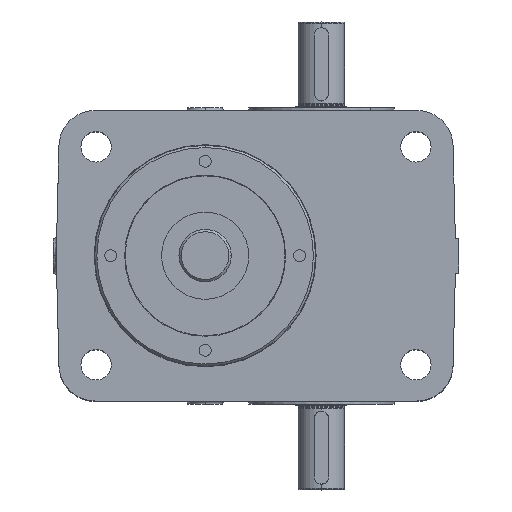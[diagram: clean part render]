
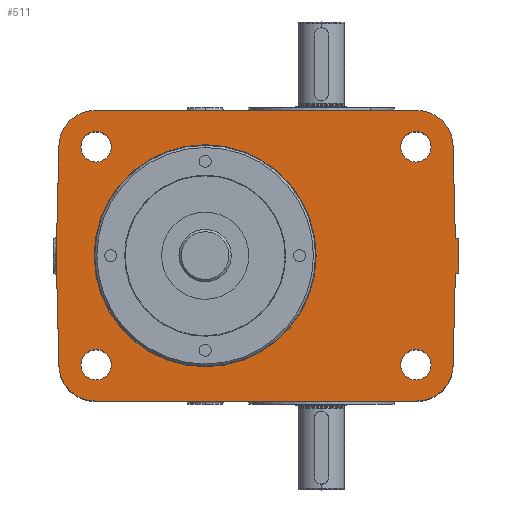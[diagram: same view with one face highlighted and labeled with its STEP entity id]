
A CAD part, top view. The second image highlights one B-rep face of the part: STEP entity #511.
In plain terms, the highlighted planar face has unit normal (0, 0, 1).
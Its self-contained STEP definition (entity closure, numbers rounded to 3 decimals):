
#511=ADVANCED_FACE('',(#1592,#1593,#1594,#1595,#1596,#1597),#1598,.F.);
#1592=FACE_OUTER_BOUND('',#4380,.T.);
#1593=FACE_BOUND('',#4381,.T.);
#1594=FACE_BOUND('',#4382,.T.);
#1595=FACE_BOUND('',#4383,.T.);
#1596=FACE_BOUND('',#4384,.T.);
#1597=FACE_BOUND('',#4385,.T.);
#1598=PLANE('',#4386);
#4380=EDGE_LOOP('',(#7780,#7781,#7782,#7783,#7784,#7785,#7786,#7787,#7788,#7789,#7790,#7791,#7792,#7793,#7794,#7795,#7796));
#4381=EDGE_LOOP('',(#7797,#7798));
#4382=EDGE_LOOP('',(#7799,#7800));
#4383=EDGE_LOOP('',(#7801,#7802));
#4384=EDGE_LOOP('',(#7803,#7804));
#4385=EDGE_LOOP('',(#7805,#7806));
#4386=AXIS2_PLACEMENT_3D('',#7807,#7808,#7809);
#7780=ORIENTED_EDGE('',*,*,#10714,.F.);
#7781=ORIENTED_EDGE('',*,*,#10288,.F.);
#7782=ORIENTED_EDGE('',*,*,#10733,.F.);
#7783=ORIENTED_EDGE('',*,*,#9850,.F.);
#7784=ORIENTED_EDGE('',*,*,#10697,.T.);
#7785=ORIENTED_EDGE('',*,*,#10700,.T.);
#7786=ORIENTED_EDGE('',*,*,#9819,.F.);
#7787=ORIENTED_EDGE('',*,*,#10771,.F.);
#7788=ORIENTED_EDGE('',*,*,#10458,.F.);
#7789=ORIENTED_EDGE('',*,*,#10775,.F.);
#7790=ORIENTED_EDGE('',*,*,#9807,.F.);
#7791=ORIENTED_EDGE('',*,*,#10776,.T.);
#7792=ORIENTED_EDGE('',*,*,#10777,.T.);
#7793=ORIENTED_EDGE('',*,*,#10778,.T.);
#7794=ORIENTED_EDGE('',*,*,#10779,.F.);
#7795=ORIENTED_EDGE('',*,*,#10712,.T.);
#7796=ORIENTED_EDGE('',*,*,#9866,.F.);
#7797=ORIENTED_EDGE('',*,*,#10780,.F.);
#7798=ORIENTED_EDGE('',*,*,#9769,.F.);
#7799=ORIENTED_EDGE('',*,*,#10781,.T.);
#7800=ORIENTED_EDGE('',*,*,#9786,.T.);
#7801=ORIENTED_EDGE('',*,*,#10782,.T.);
#7802=ORIENTED_EDGE('',*,*,#9791,.T.);
#7803=ORIENTED_EDGE('',*,*,#10783,.T.);
#7804=ORIENTED_EDGE('',*,*,#9796,.T.);
#7805=ORIENTED_EDGE('',*,*,#10784,.T.);
#7806=ORIENTED_EDGE('',*,*,#9800,.T.);
#7807=CARTESIAN_POINT('',(35.0,0.,200.0));
#7808=DIRECTION('',(0.0,0.,-1.0));
#7809=DIRECTION('',(1.0,0.0,0.0));
#9769=EDGE_CURVE('',#11364,#11367,#11368,.T.);
#9786=EDGE_CURVE('',#11398,#11395,#11399,.T.);
#9791=EDGE_CURVE('',#11408,#11405,#11409,.T.);
#9796=EDGE_CURVE('',#11418,#11415,#11419,.T.);
#9800=EDGE_CURVE('',#11426,#11423,#11427,.T.);
#9807=EDGE_CURVE('',#11438,#11434,#11440,.T.);
#9819=EDGE_CURVE('',#11461,#11464,#11465,.T.);
#9850=EDGE_CURVE('',#11521,#11517,#11523,.T.);
#9866=EDGE_CURVE('',#11550,#11553,#11554,.T.);
#10288=EDGE_CURVE('',#12287,#12289,#12290,.T.);
#10458=EDGE_CURVE('',#12574,#12576,#12577,.T.);
#10697=EDGE_CURVE('',#11521,#12916,#12918,.T.);
#10700=EDGE_CURVE('',#12916,#11464,#12921,.T.);
#10712=EDGE_CURVE('',#12937,#11553,#12938,.T.);
#10714=EDGE_CURVE('',#12289,#11550,#12940,.T.);
#10733=EDGE_CURVE('',#11517,#12287,#12965,.T.);
#10771=EDGE_CURVE('',#12576,#11461,#13018,.T.);
#10775=EDGE_CURVE('',#11434,#12574,#13023,.T.);
#10776=EDGE_CURVE('',#11438,#13024,#13025,.T.);
#10777=EDGE_CURVE('',#13024,#13026,#13027,.T.);
#10778=EDGE_CURVE('',#13026,#13028,#13029,.T.);
#10779=EDGE_CURVE('',#12937,#13028,#13030,.T.);
#10780=EDGE_CURVE('',#11367,#11364,#13031,.T.);
#10781=EDGE_CURVE('',#11395,#11398,#13032,.T.);
#10782=EDGE_CURVE('',#11405,#11408,#13033,.T.);
#10783=EDGE_CURVE('',#11415,#11418,#13034,.T.);
#10784=EDGE_CURVE('',#11423,#11426,#13035,.T.);
#11364=VERTEX_POINT('',#14007);
#11367=VERTEX_POINT('',#14011);
#11368=CIRCLE('',#14012,76.402);
#11395=VERTEX_POINT('',#14049);
#11398=VERTEX_POINT('',#14053);
#11399=CIRCLE('',#14054,10.5);
#11405=VERTEX_POINT('',#14061);
#11408=VERTEX_POINT('',#14065);
#11409=CIRCLE('',#14066,10.5);
#11415=VERTEX_POINT('',#14073);
#11418=VERTEX_POINT('',#14077);
#11419=CIRCLE('',#14078,10.5);
#11423=VERTEX_POINT('',#14083);
#11426=VERTEX_POINT('',#14087);
#11427=CIRCLE('',#14088,10.5);
#11434=VERTEX_POINT('',#14096);
#11438=VERTEX_POINT('',#14101);
#11440=CIRCLE('',#14104,25.0);
#11461=VERTEX_POINT('',#14173);
#11464=VERTEX_POINT('',#14177);
#11465=CIRCLE('',#14178,25.0);
#11517=VERTEX_POINT('',#14296);
#11521=VERTEX_POINT('',#14301);
#11523=CIRCLE('',#14304,25.0);
#11550=VERTEX_POINT('',#14381);
#11553=VERTEX_POINT('',#14385);
#11554=CIRCLE('',#14386,25.0);
#12287=VERTEX_POINT('',#15717);
#12289=VERTEX_POINT('',#15720);
#12290=LINE('',#15721,#15722);
#12574=VERTEX_POINT('',#16371);
#12576=VERTEX_POINT('',#16374);
#12577=LINE('',#16375,#16376);
#12916=VERTEX_POINT('',#17224);
#12918=LINE('',#17227,#17228);
#12921=LINE('',#17233,#17234);
#12937=VERTEX_POINT('',#17251);
#12938=LINE('',#17252,#17253);
#12940=CIRCLE('',#17256,25.0);
#12965=CIRCLE('',#17326,25.0);
#13018=CIRCLE('',#17452,25.0);
#13023=CIRCLE('',#17460,25.0);
#13024=VERTEX_POINT('',#17461);
#13025=LINE('',#17462,#17463);
#13026=VERTEX_POINT('',#17464);
#13027=LINE('',#17465,#17466);
#13028=VERTEX_POINT('',#17467);
#13029=LINE('',#17468,#17469);
#13030=LINE('',#17470,#17471);
#13031=CIRCLE('',#17472,76.402);
#13032=CIRCLE('',#17473,10.5);
#13033=CIRCLE('',#17474,10.5);
#13034=CIRCLE('',#17475,10.5);
#13035=CIRCLE('',#17476,10.5);
#14007=CARTESIAN_POINT('',(76.402,0.,200.0));
#14011=CARTESIAN_POINT('',(-76.402,0.,200.0));
#14012=AXIS2_PLACEMENT_3D('',#18636,#18637,#18638);
#14049=CARTESIAN_POINT('',(-85.5,75.0,200.0));
#14053=CARTESIAN_POINT('',(-64.5,75.0,200.0));
#14054=AXIS2_PLACEMENT_3D('',#18672,#18673,#18674);
#14061=CARTESIAN_POINT('',(134.5,75.0,200.0));
#14065=CARTESIAN_POINT('',(155.5,75.0,200.0));
#14066=AXIS2_PLACEMENT_3D('',#18683,#18684,#18685);
#14073=CARTESIAN_POINT('',(134.5,-75.0,200.0));
#14077=CARTESIAN_POINT('',(155.5,-75.0,200.0));
#14078=AXIS2_PLACEMENT_3D('',#18694,#18695,#18696);
#14083=CARTESIAN_POINT('',(-85.5,-75.0,200.0));
#14087=CARTESIAN_POINT('',(-64.5,-75.0,200.0));
#14088=AXIS2_PLACEMENT_3D('',#18702,#18703,#18704);
#14096=CARTESIAN_POINT('',(163.073,-92.897,200.0));
#14101=CARTESIAN_POINT('',(170.609,-75.625,200.0));
#14104=AXIS2_PLACEMENT_3D('',#18717,#18718,#18719);
#14173=CARTESIAN_POINT('',(-93.073,-92.897,200.0));
#14177=CARTESIAN_POINT('',(-100.609,-75.625,200.0));
#14178=AXIS2_PLACEMENT_3D('',#18731,#18732,#18733);
#14296=CARTESIAN_POINT('',(-93.073,92.897,200.0));
#14301=CARTESIAN_POINT('',(-100.609,75.625,200.0));
#14304=AXIS2_PLACEMENT_3D('',#18779,#18780,#18781);
#14381=CARTESIAN_POINT('',(163.073,92.897,200.0));
#14385=CARTESIAN_POINT('',(170.609,75.625,200.0));
#14386=AXIS2_PLACEMENT_3D('',#18801,#18802,#18803);
#15717=CARTESIAN_POINT('',(-75.617,100.0,200.0));
#15720=CARTESIAN_POINT('',(145.617,100.0,200.0));
#15721=CARTESIAN_POINT('',(-102.5,100.0,200.0));
#15722=VECTOR('',#19405,221.234);
#16371=CARTESIAN_POINT('',(145.617,-100.0,200.0));
#16374=CARTESIAN_POINT('',(-75.617,-100.0,200.0));
#16375=CARTESIAN_POINT('',(172.5,-100.0,200.0));
#16376=VECTOR('',#19513,221.234);
#17224=CARTESIAN_POINT('',(-102.5,0.,200.0));
#17227=CARTESIAN_POINT('',(-102.457,1.718,200.0));
#17228=VECTOR('',#19892,75.648);
#17233=CARTESIAN_POINT('',(-101.207,-51.718,200.0));
#17234=VECTOR('',#19895,75.648);
#17251=CARTESIAN_POINT('',(172.2,12.0,200.0));
#17252=CARTESIAN_POINT('',(171.207,51.718,200.0));
#17253=VECTOR('',#19927,63.645);
#17256=AXIS2_PLACEMENT_3D('',#19929,#19930,#19931);
#17326=AXIS2_PLACEMENT_3D('',#19972,#19973,#19974);
#17452=AXIS2_PLACEMENT_3D('',#20046,#20047,#20048);
#17460=AXIS2_PLACEMENT_3D('',#20052,#20053,#20054);
#17461=CARTESIAN_POINT('',(172.2,-12.0,200.0));
#17462=CARTESIAN_POINT('',(172.457,-1.718,200.0));
#17463=VECTOR('',#20055,63.645);
#17464=CARTESIAN_POINT('',(174.5,-12.0,200.0));
#17465=CARTESIAN_POINT('',(172.5,-12.0,200.0));
#17466=VECTOR('',#20056,2.3);
#17467=CARTESIAN_POINT('',(174.5,12.0,200.0));
#17468=CARTESIAN_POINT('',(174.5,12.0,200.0));
#17469=VECTOR('',#20057,24.0);
#17470=CARTESIAN_POINT('',(172.5,12.0,200.0));
#17471=VECTOR('',#20058,2.3);
#17472=AXIS2_PLACEMENT_3D('',#20059,#20060,#20061);
#17473=AXIS2_PLACEMENT_3D('',#20062,#20063,#20064);
#17474=AXIS2_PLACEMENT_3D('',#20065,#20066,#20067);
#17475=AXIS2_PLACEMENT_3D('',#20068,#20069,#20070);
#17476=AXIS2_PLACEMENT_3D('',#20071,#20072,#20073);
#18636=CARTESIAN_POINT('',(0.0,0.,200.0));
#18637=DIRECTION('',(-0.0,0.,1.0));
#18638=DIRECTION('',(1.0,0.0,0.0));
#18672=CARTESIAN_POINT('',(-75.0,75.0,200.0));
#18673=DIRECTION('',(-0.0,0.,-1.0));
#18674=DIRECTION('',(-1.0,0.0,0.0));
#18683=CARTESIAN_POINT('',(145.0,75.0,200.0));
#18684=DIRECTION('',(-0.0,0.,-1.0));
#18685=DIRECTION('',(-1.0,0.0,0.0));
#18694=CARTESIAN_POINT('',(145.0,-75.0,200.0));
#18695=DIRECTION('',(-0.0,0.,-1.0));
#18696=DIRECTION('',(-1.0,0.0,0.0));
#18702=CARTESIAN_POINT('',(-75.0,-75.0,200.0));
#18703=DIRECTION('',(-0.0,0.,-1.0));
#18704=DIRECTION('',(-1.0,0.0,0.0));
#18717=CARTESIAN_POINT('',(145.617,-75.0,200.0));
#18718=DIRECTION('',(0.,0.,-1.0));
#18719=DIRECTION('',(0.698,-0.716,0.));
#18731=CARTESIAN_POINT('',(-75.617,-75.0,200.0));
#18732=DIRECTION('',(0.0,0.,-1.0));
#18733=DIRECTION('',(-0.698,-0.716,0.));
#18779=CARTESIAN_POINT('',(-75.617,75.0,200.0));
#18780=DIRECTION('',(0.0,0.,-1.0));
#18781=DIRECTION('',(-0.698,0.716,0.));
#18801=CARTESIAN_POINT('',(145.617,75.0,200.0));
#18802=DIRECTION('',(0.0,0.,-1.0));
#18803=DIRECTION('',(0.698,0.716,0.));
#19405=DIRECTION('',(1.0,0.0,0.0));
#19513=DIRECTION('',(-1.0,0.,0.));
#19892=DIRECTION('',(-0.025,-1.,0.));
#19895=DIRECTION('',(0.025,-1.,0.));
#19927=DIRECTION('',(-0.025,1.,0.));
#19929=CARTESIAN_POINT('',(145.617,75.0,200.0));
#19930=DIRECTION('',(0.0,0.,-1.0));
#19931=DIRECTION('',(0.698,0.716,0.));
#19972=CARTESIAN_POINT('',(-75.617,75.0,200.0));
#19973=DIRECTION('',(0.0,0.,-1.0));
#19974=DIRECTION('',(-0.698,0.716,0.));
#20046=CARTESIAN_POINT('',(-75.617,-75.0,200.0));
#20047=DIRECTION('',(0.0,0.,-1.0));
#20048=DIRECTION('',(-0.698,-0.716,0.));
#20052=CARTESIAN_POINT('',(145.617,-75.0,200.0));
#20053=DIRECTION('',(0.,0.,-1.0));
#20054=DIRECTION('',(0.698,-0.716,0.));
#20055=DIRECTION('',(0.025,1.,0.));
#20056=DIRECTION('',(1.0,0.0,0.0));
#20057=DIRECTION('',(0.0,1.0,0.));
#20058=DIRECTION('',(1.0,0.0,0.0));
#20059=CARTESIAN_POINT('',(0.0,0.,200.0));
#20060=DIRECTION('',(-0.0,0.,1.0));
#20061=DIRECTION('',(1.0,0.0,0.0));
#20062=CARTESIAN_POINT('',(-75.0,75.0,200.0));
#20063=DIRECTION('',(-0.0,0.,-1.0));
#20064=DIRECTION('',(-1.0,0.0,0.0));
#20065=CARTESIAN_POINT('',(145.0,75.0,200.0));
#20066=DIRECTION('',(-0.0,0.,-1.0));
#20067=DIRECTION('',(-1.0,0.0,0.0));
#20068=CARTESIAN_POINT('',(145.0,-75.0,200.0));
#20069=DIRECTION('',(-0.0,0.,-1.0));
#20070=DIRECTION('',(-1.0,0.0,0.0));
#20071=CARTESIAN_POINT('',(-75.0,-75.0,200.0));
#20072=DIRECTION('',(-0.0,0.,-1.0));
#20073=DIRECTION('',(-1.0,0.0,0.0));
